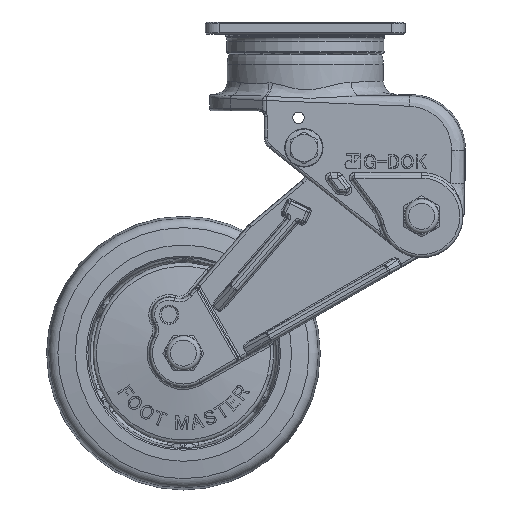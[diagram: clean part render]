
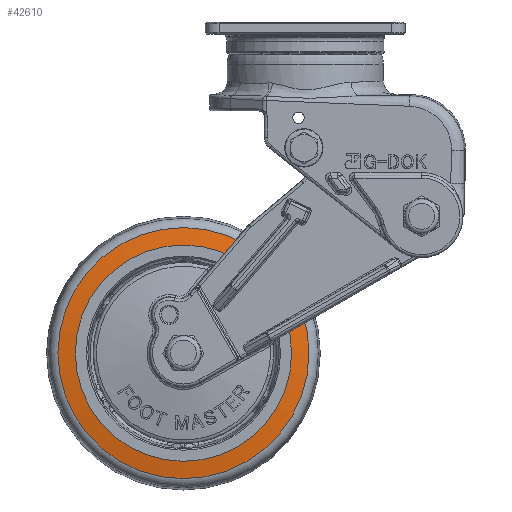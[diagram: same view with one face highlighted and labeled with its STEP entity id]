
A CAD part, front view. The second image highlights one B-rep face of the part: STEP entity #42610.
In plain terms, the highlighted conical face has half-angle 80.918 degrees and reference radius 42.694 mm.
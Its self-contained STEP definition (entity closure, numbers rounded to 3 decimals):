
#4701=FACE_OUTER_BOUND('',#7292,.T.);
#7292=EDGE_LOOP('',(#27054,#27055,#27056,#27057,#27058));
#10032=LINE('',#59419,#12468);
#12468=VECTOR('',#49155,42.694);
#14906=CIRCLE('',#45228,45.873);
#14907=CIRCLE('',#45229,39.516);
#14908=CIRCLE('',#45230,45.873);
#16727=VERTEX_POINT('',#59415);
#16728=VERTEX_POINT('',#59416);
#16729=VERTEX_POINT('',#59418);
#20659=EDGE_CURVE('',#16727,#16728,#14906,.T.);
#20660=EDGE_CURVE('',#16728,#16729,#10032,.T.);
#20661=EDGE_CURVE('',#16729,#16729,#14907,.T.);
#20662=EDGE_CURVE('',#16728,#16727,#14908,.T.);
#27054=ORIENTED_EDGE('',*,*,#20659,.T.);
#27055=ORIENTED_EDGE('',*,*,#20660,.T.);
#27056=ORIENTED_EDGE('',*,*,#20661,.T.);
#27057=ORIENTED_EDGE('',*,*,#20660,.F.);
#27058=ORIENTED_EDGE('',*,*,#20662,.T.);
#39834=CONICAL_SURFACE('',#45227,42.694,1.412);
#42610=ADVANCED_FACE('',(#4701),#39834,.T.);
#45227=AXIS2_PLACEMENT_3D('',#59414,#49151,#49152);
#45228=AXIS2_PLACEMENT_3D('',#59417,#49153,#49154);
#45229=AXIS2_PLACEMENT_3D('',#59420,#49156,#49157);
#45230=AXIS2_PLACEMENT_3D('',#59421,#49158,#49159);
#49151=DIRECTION('center_axis',(0.,1.,0.));
#49152=DIRECTION('ref_axis',(0.867,0.,0.498));
#49153=DIRECTION('center_axis',(0.,-1.,0.));
#49154=DIRECTION('ref_axis',(0.498,0.,-0.867));
#49155=DIRECTION('',(0.856,-0.158,0.492));
#49156=DIRECTION('center_axis',(0.,1.,0.));
#49157=DIRECTION('ref_axis',(0.867,0.,0.498));
#49158=DIRECTION('center_axis',(0.,-1.,0.));
#49159=DIRECTION('ref_axis',(0.498,0.,-0.867));
#59414=CARTESIAN_POINT('Origin',(-44.521,-14.492,-121.));
#59415=CARTESIAN_POINT('',(-67.374,-13.984,-81.225));
#59416=CARTESIAN_POINT('',(-84.295,-13.984,-143.853));
#59417=CARTESIAN_POINT('Origin',(-44.521,-13.984,-121.));
#59418=CARTESIAN_POINT('',(-78.784,-15.,-140.686));
#59419=CARTESIAN_POINT('',(-81.54,-14.492,-142.27));
#59420=CARTESIAN_POINT('Origin',(-44.521,-15.,-121.));
#59421=CARTESIAN_POINT('Origin',(-44.521,-13.984,-121.));
